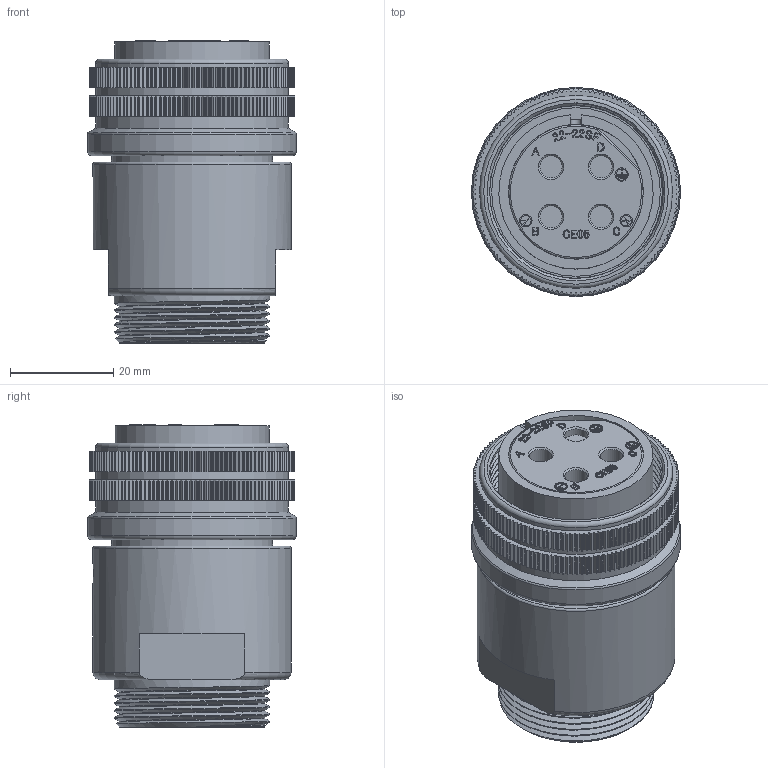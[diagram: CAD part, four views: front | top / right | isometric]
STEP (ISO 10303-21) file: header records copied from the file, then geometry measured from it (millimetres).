
FILE_DESCRIPTION (( 'STEP AP203' ), '1' );
FILE_NAME ('CE05-6A22-22SD-D-BSS.STEP', '2021-05-31T11:00:14', ( '' ), ( '' ), 'SwSTEP 2.0', 'SolidWorks 2018', '' );
FILE_SCHEMA (( 'CONFIG_CONTROL_DESIGN' ));
Length unit declared in the file: millimetre
Products named in the file (1): CE05-6A22-22SD-D-BSS
Bounding box: 40.43 x 40.43 x 58.41 mm (x, y, z)
Volume: 43100.6 mm3; surface area: 24443.5 mm2
Topology: 1 solids, 1 shells, 2457 faces, 7153 edges, 4789 vertices
Faces by surface type: cylinder 1160, plane 905, bspline 364, torus 15, cone 13
Full cylindrical faces by diameter (mm): 0.8 x3, 2 x2, 2.4 x2, 2.6 x2, 4.3 x4, 4.7 x4, 5.5 x4, 5.65 x3, 7.4 x3, 17.8 x1, 26.07 x1, 26.73 x1, 28.64 x1, 30.07 x5, 31.14 x1, 31.7 x1, 32.6 x1, 33.37 x1, 33.99 x1, 37.31 x3, 38.3 x1, 40.43 x1
Entity records: 94846 total; most frequent: CARTESIAN_POINT 30748, ORIENTED_EDGE 14122, DIRECTION 12700, EDGE_CURVE 7061, VERTEX_POINT 4764, AXIS2_PLACEMENT_3D 4413, VECTOR 3874, LINE 3874
